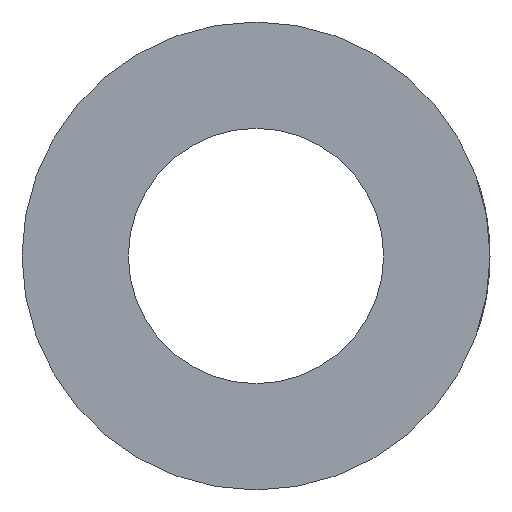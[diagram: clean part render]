
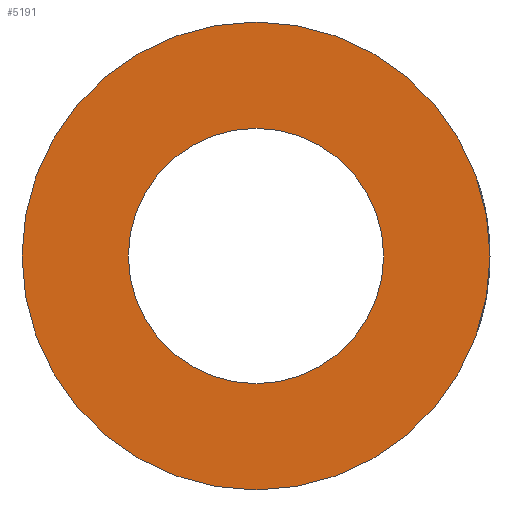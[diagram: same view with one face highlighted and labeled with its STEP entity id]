
A CAD part, left-side view. The second image highlights one B-rep face of the part: STEP entity #5191.
In plain terms, the highlighted planar face has unit normal (-1, 0, 0).
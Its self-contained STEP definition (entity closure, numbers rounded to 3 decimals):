
#113=PLANE('',#5595);
#359=CIRCLE('',#5594,11.);
#360=CIRCLE('',#5596,6.);
#1567=ORIENTED_EDGE('',*,*,#3137,.T.);
#1568=ORIENTED_EDGE('',*,*,#3136,.F.);
#3136=EDGE_CURVE('',#3921,#3921,#359,.T.);
#3137=EDGE_CURVE('',#3922,#3922,#360,.T.);
#3921=VERTEX_POINT('',#8117);
#3922=VERTEX_POINT('',#8120);
#4434=EDGE_LOOP('',(#1567));
#4435=EDGE_LOOP('',(#1568));
#4807=FACE_BOUND('',#4434,.T.);
#4808=FACE_BOUND('',#4435,.T.);
#5191=ADVANCED_FACE('',(#4807,#4808),#113,.F.);
#5594=AXIS2_PLACEMENT_3D('',#8116,#6142,#6143);
#5595=AXIS2_PLACEMENT_3D('',#8118,#6144,#6145);
#5596=AXIS2_PLACEMENT_3D('',#8119,#6146,#6147);
#6142=DIRECTION('',(1.,0.,0.));
#6143=DIRECTION('',(0.,0.,-1.));
#6144=DIRECTION('',(1.,0.,0.));
#6145=DIRECTION('',(0.,0.,-1.));
#6146=DIRECTION('',(1.,0.,0.));
#6147=DIRECTION('',(0.,0.,-1.));
#8116=CARTESIAN_POINT('',(-16.,0.,0.));
#8117=CARTESIAN_POINT('',(-16.,0.,-11.));
#8118=CARTESIAN_POINT('',(-16.,0.,0.));
#8119=CARTESIAN_POINT('',(-16.,0.,0.));
#8120=CARTESIAN_POINT('',(-16.,0.,-6.));
